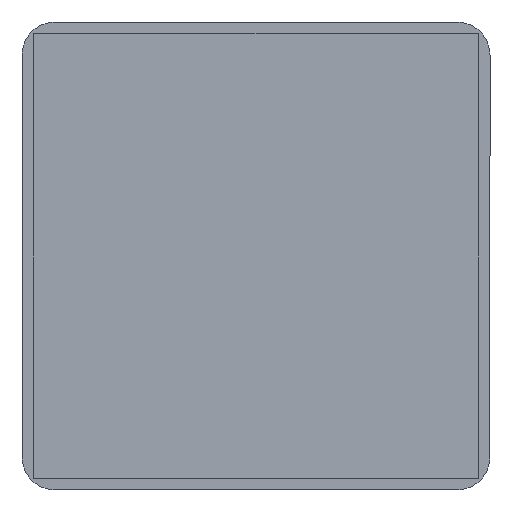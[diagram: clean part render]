
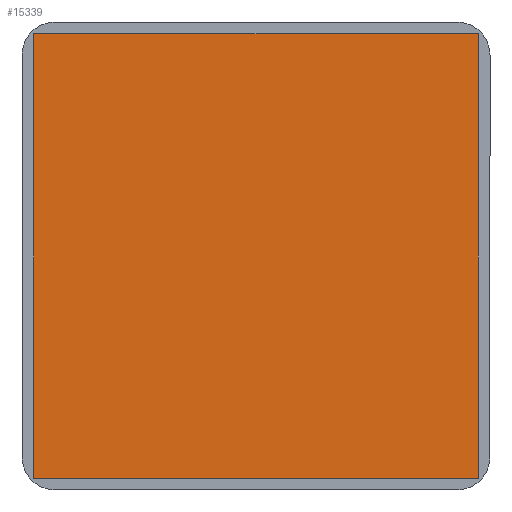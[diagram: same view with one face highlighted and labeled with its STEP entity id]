
A CAD part, front view. The second image highlights one B-rep face of the part: STEP entity #15339.
In plain terms, the highlighted planar face has unit normal (0, -1, 0).
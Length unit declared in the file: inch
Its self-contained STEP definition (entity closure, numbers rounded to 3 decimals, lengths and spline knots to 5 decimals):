
#184 = EDGE_CURVE ( 'NONE', #2344, #4269, #14734, .T. ) ;
#442 = AXIS2_PLACEMENT_3D ( 'NONE', #5357, #17286, #16205 ) ;
#1332 = CARTESIAN_POINT ( 'NONE',  ( 0.7874, -0.005, -0.7874 ) ) ;
#1699 = EDGE_LOOP ( 'NONE', ( #4531, #8919, #5606, #15967 ) ) ;
#1863 = LINE ( 'NONE', #10689, #18546 ) ;
#2105 = CARTESIAN_POINT ( 'NONE',  ( -0.7874, -0.005, 0.7874 ) ) ;
#2344 = VERTEX_POINT ( 'NONE', #10456 ) ;
#2554 = VECTOR ( 'NONE', #4847, 39.37008 ) ;
#4269 = VERTEX_POINT ( 'NONE', #18652 ) ;
#4531 = ORIENTED_EDGE ( 'NONE', *, *, #14424, .F. ) ;
#4847 = DIRECTION ( 'NONE',  ( 0., 0., 1. ) ) ;
#5357 = CARTESIAN_POINT ( 'NONE',  ( -0.7874, -0.005, 0.7874 ) ) ;
#5606 = ORIENTED_EDGE ( 'NONE', *, *, #184, .F. ) ;
#5689 = EDGE_CURVE ( 'NONE', #4269, #14683, #1863, .T. ) ;
#6526 = CARTESIAN_POINT ( 'NONE',  ( -0.7874, -0.005, -0.7874 ) ) ;
#8919 = ORIENTED_EDGE ( 'NONE', *, *, #5689, .F. ) ;
#9424 = DIRECTION ( 'NONE',  ( -1., 0., 0. ) ) ;
#10456 = CARTESIAN_POINT ( 'NONE',  ( 0.7874, -0.005, 0.7874 ) ) ;
#10550 = DIRECTION ( 'NONE',  ( 0., 0., -1. ) ) ;
#10689 = CARTESIAN_POINT ( 'NONE',  ( -0.7874, -0.005, -0.7874 ) ) ;
#11017 = LINE ( 'NONE', #2105, #11860 ) ;
#11213 = FACE_OUTER_BOUND ( 'NONE', #1699, .T. ) ;
#11305 = DIRECTION ( 'NONE',  ( 1., 0., 0. ) ) ;
#11340 = VECTOR ( 'NONE', #10550, 39.37008 ) ;
#11860 = VECTOR ( 'NONE', #11305, 39.37008 ) ;
#13651 = CARTESIAN_POINT ( 'NONE',  ( -0.7874, -0.005, -0.7874 ) ) ;
#13840 = LINE ( 'NONE', #13651, #2554 ) ;
#14424 = EDGE_CURVE ( 'NONE', #14683, #18151, #13840, .T. ) ;
#14683 = VERTEX_POINT ( 'NONE', #6526 ) ;
#14734 = LINE ( 'NONE', #1332, #11340 ) ;
#15339 = ADVANCED_FACE ( 'NONE', ( #11213 ), #17182, .F. ) ;
#15344 = CARTESIAN_POINT ( 'NONE',  ( -0.7874, -0.005, 0.7874 ) ) ;
#15967 = ORIENTED_EDGE ( 'NONE', *, *, #19141, .F. ) ;
#16205 = DIRECTION ( 'NONE',  ( 0., 0., 1. ) ) ;
#17182 = PLANE ( 'NONE',  #442 ) ;
#17286 = DIRECTION ( 'NONE',  ( 0., 1., 0. ) ) ;
#18151 = VERTEX_POINT ( 'NONE', #15344 ) ;
#18546 = VECTOR ( 'NONE', #9424, 39.37008 ) ;
#18652 = CARTESIAN_POINT ( 'NONE',  ( 0.7874, -0.005, -0.7874 ) ) ;
#19141 = EDGE_CURVE ( 'NONE', #18151, #2344, #11017, .T. ) ;
